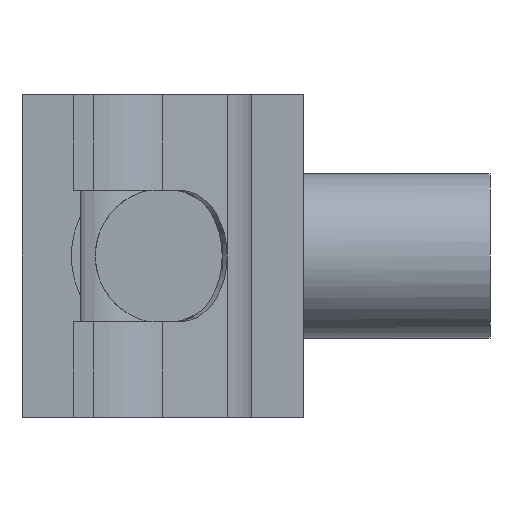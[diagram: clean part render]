
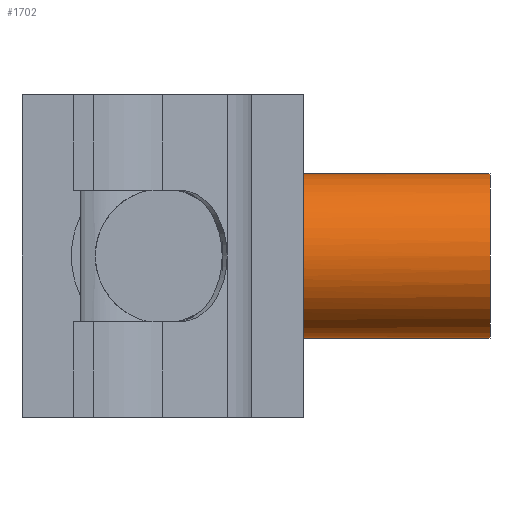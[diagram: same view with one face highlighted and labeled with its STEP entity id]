
A CAD part, front view. The second image highlights one B-rep face of the part: STEP entity #1702.
In plain terms, the highlighted cylindrical face has radius 30.05 mm (diameter 60.1 mm), a full revolution.
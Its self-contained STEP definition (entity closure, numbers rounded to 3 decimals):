
#52=B_SPLINE_CURVE_WITH_KNOTS('',3,(#2805,#2806,#2807,#2808,#2809,#2810,
#2811,#2812,#2813,#2814,#2815,#2816,#2817,#2818,#2819,#2820,#2821,#2822,
#2823,#2824,#2825,#2826),.UNSPECIFIED.,.F.,.F.,(4,2,2,2,2,2,2,2,2,2,4),
(0.,0.363,0.725,1.088,1.451,
2.176,2.902,3.519,4.136,4.753,
5.37),.UNSPECIFIED.);
#53=B_SPLINE_CURVE_WITH_KNOTS('',3,(#2827,#2828,#2829,#2830,#2831,#2832,
#2833,#2834,#2835,#2836,#2837,#2838,#2839,#2840,#2841,#2842,#2843,#2844,
#2845,#2846,#2847,#2848,#2849,#2850,#2851,#2852,#2853,#2854,#2855,#2856,
#2857,#2858,#2859,#2860,#2861,#2862,#2863,#2864,#2865,#2866,#2867,#2868,
#2869,#2870,#2871,#2872,#2873,#2874,#2875,#2876,#2877,#2878,#2879,#2880,
#2881,#2882,#2883,#2884,#2885,#2886,#2887,#2888),.UNSPECIFIED.,.F.,.F.,
(4,2,2,2,2,2,2,2,2,2,2,2,2,2,2,2,2,2,2,2,2,2,2,2,2,2,2,2,2,2,4),(5.37,
5.986,6.603,7.22,7.837,8.563,
9.288,9.651,10.014,10.376,10.739,
11.102,11.464,11.827,12.19,12.915,
13.641,14.258,14.875,15.492,16.109,
16.726,17.343,17.959,18.576,19.302,
20.027,20.39,20.753,21.115,21.478),
 .UNSPECIFIED.);
#62=LINE('',#2803,#215);
#215=VECTOR('',#2041,30.05);
#369=CYLINDRICAL_SURFACE('',#1832,30.05);
#402=FACE_OUTER_BOUND('',#506,.T.);
#506=EDGE_LOOP('',(#1149,#1150,#1151,#1152,#1153,#1154));
#625=CIRCLE('',#1833,30.05);
#626=CIRCLE('',#1834,30.05);
#719=VERTEX_POINT('',#2798);
#720=VERTEX_POINT('',#2799);
#721=VERTEX_POINT('',#2802);
#722=VERTEX_POINT('',#2804);
#890=EDGE_CURVE('',#719,#720,#625,.T.);
#891=EDGE_CURVE('',#720,#719,#626,.T.);
#892=EDGE_CURVE('',#720,#721,#62,.T.);
#893=EDGE_CURVE('',#722,#721,#52,.T.);
#894=EDGE_CURVE('',#721,#722,#53,.T.);
#1149=ORIENTED_EDGE('',*,*,#890,.F.);
#1150=ORIENTED_EDGE('',*,*,#891,.F.);
#1151=ORIENTED_EDGE('',*,*,#892,.T.);
#1152=ORIENTED_EDGE('',*,*,#893,.F.);
#1153=ORIENTED_EDGE('',*,*,#894,.F.);
#1154=ORIENTED_EDGE('',*,*,#892,.F.);
#1702=ADVANCED_FACE('',(#402),#369,.T.);
#1832=AXIS2_PLACEMENT_3D('',#2797,#2035,#2036);
#1833=AXIS2_PLACEMENT_3D('',#2800,#2037,#2038);
#1834=AXIS2_PLACEMENT_3D('',#2801,#2039,#2040);
#2035=DIRECTION('center_axis',(1.,0.,0.));
#2036=DIRECTION('ref_axis',(0.,1.,0.));
#2037=DIRECTION('center_axis',(1.,0.,0.));
#2038=DIRECTION('ref_axis',(0.,0.,-1.));
#2039=DIRECTION('center_axis',(1.,0.,0.));
#2040=DIRECTION('ref_axis',(0.,0.,-1.));
#2041=DIRECTION('',(-1.,0.,0.));
#2797=CARTESIAN_POINT('Origin',(59.944,95.074,0.));
#2798=CARTESIAN_POINT('',(119.888,125.124,0.));
#2799=CARTESIAN_POINT('',(119.888,65.024,0.));
#2800=CARTESIAN_POINT('Origin',(119.888,95.074,0.));
#2801=CARTESIAN_POINT('Origin',(119.888,95.074,0.));
#2802=CARTESIAN_POINT('',(31.034,65.024,0.));
#2803=CARTESIAN_POINT('',(59.944,65.024,0.));
#2804=CARTESIAN_POINT('',(7.753,95.074,-30.05));
#2805=CARTESIAN_POINT('Ctrl Pts',(7.753,95.074,-30.05));
#2806=CARTESIAN_POINT('Ctrl Pts',(7.753,93.865,-30.05));
#2807=CARTESIAN_POINT('Ctrl Pts',(8.026,92.806,-29.981));
#2808=CARTESIAN_POINT('Ctrl Pts',(8.801,90.809,-29.763));
#2809=CARTESIAN_POINT('Ctrl Pts',(9.308,89.873,-29.611));
#2810=CARTESIAN_POINT('Ctrl Pts',(10.449,88.032,-29.228));
#2811=CARTESIAN_POINT('Ctrl Pts',(11.082,87.134,-28.997));
#2812=CARTESIAN_POINT('Ctrl Pts',(12.421,85.352,-28.449));
#2813=CARTESIAN_POINT('Ctrl Pts',(13.128,84.469,-28.133));
#2814=CARTESIAN_POINT('Ctrl Pts',(15.315,81.83,-27.041));
#2815=CARTESIAN_POINT('Ctrl Pts',(16.844,80.104,-26.13));
#2816=CARTESIAN_POINT('Ctrl Pts',(19.827,76.813,-23.946));
#2817=CARTESIAN_POINT('Ctrl Pts',(21.281,75.25,-22.673));
#2818=CARTESIAN_POINT('Ctrl Pts',(23.757,72.614,-20.037));
#2819=CARTESIAN_POINT('Ctrl Pts',(24.88,71.431,-18.644));
#2820=CARTESIAN_POINT('Ctrl Pts',(26.933,69.279,-15.531));
#2821=CARTESIAN_POINT('Ctrl Pts',(27.862,68.311,-13.812));
#2822=CARTESIAN_POINT('Ctrl Pts',(29.4,66.714,-10.136));
#2823=CARTESIAN_POINT('Ctrl Pts',(30.009,66.084,-8.174));
#2824=CARTESIAN_POINT('Ctrl Pts',(30.826,65.238,-4.135));
#2825=CARTESIAN_POINT('Ctrl Pts',(31.034,65.024,-2.057));
#2826=CARTESIAN_POINT('Ctrl Pts',(31.034,65.024,0.));
#2827=CARTESIAN_POINT('Ctrl Pts',(31.034,65.024,0.));
#2828=CARTESIAN_POINT('Ctrl Pts',(31.034,65.024,2.057));
#2829=CARTESIAN_POINT('Ctrl Pts',(30.826,65.238,4.135));
#2830=CARTESIAN_POINT('Ctrl Pts',(30.009,66.084,8.174));
#2831=CARTESIAN_POINT('Ctrl Pts',(29.4,66.714,10.136));
#2832=CARTESIAN_POINT('Ctrl Pts',(27.862,68.311,13.812));
#2833=CARTESIAN_POINT('Ctrl Pts',(26.933,69.279,15.531));
#2834=CARTESIAN_POINT('Ctrl Pts',(24.88,71.431,18.644));
#2835=CARTESIAN_POINT('Ctrl Pts',(23.757,72.614,20.037));
#2836=CARTESIAN_POINT('Ctrl Pts',(21.281,75.25,22.673));
#2837=CARTESIAN_POINT('Ctrl Pts',(19.827,76.813,23.946));
#2838=CARTESIAN_POINT('Ctrl Pts',(16.844,80.104,26.13));
#2839=CARTESIAN_POINT('Ctrl Pts',(15.315,81.83,27.041));
#2840=CARTESIAN_POINT('Ctrl Pts',(13.128,84.469,28.133));
#2841=CARTESIAN_POINT('Ctrl Pts',(12.421,85.352,28.449));
#2842=CARTESIAN_POINT('Ctrl Pts',(11.082,87.134,28.997));
#2843=CARTESIAN_POINT('Ctrl Pts',(10.449,88.032,29.228));
#2844=CARTESIAN_POINT('Ctrl Pts',(9.308,89.873,29.611));
#2845=CARTESIAN_POINT('Ctrl Pts',(8.801,90.809,29.763));
#2846=CARTESIAN_POINT('Ctrl Pts',(8.026,92.806,29.981));
#2847=CARTESIAN_POINT('Ctrl Pts',(7.753,93.865,30.05));
#2848=CARTESIAN_POINT('Ctrl Pts',(7.753,96.283,30.05));
#2849=CARTESIAN_POINT('Ctrl Pts',(8.026,97.342,29.981));
#2850=CARTESIAN_POINT('Ctrl Pts',(8.801,99.339,29.763));
#2851=CARTESIAN_POINT('Ctrl Pts',(9.308,100.275,29.611));
#2852=CARTESIAN_POINT('Ctrl Pts',(10.449,102.116,29.228));
#2853=CARTESIAN_POINT('Ctrl Pts',(11.082,103.014,28.997));
#2854=CARTESIAN_POINT('Ctrl Pts',(12.421,104.796,28.449));
#2855=CARTESIAN_POINT('Ctrl Pts',(13.128,105.679,28.133));
#2856=CARTESIAN_POINT('Ctrl Pts',(15.315,108.318,27.041));
#2857=CARTESIAN_POINT('Ctrl Pts',(16.844,110.044,26.13));
#2858=CARTESIAN_POINT('Ctrl Pts',(19.827,113.335,23.946));
#2859=CARTESIAN_POINT('Ctrl Pts',(21.281,114.898,22.673));
#2860=CARTESIAN_POINT('Ctrl Pts',(23.757,117.534,20.037));
#2861=CARTESIAN_POINT('Ctrl Pts',(24.88,118.717,18.644));
#2862=CARTESIAN_POINT('Ctrl Pts',(26.933,120.869,15.531));
#2863=CARTESIAN_POINT('Ctrl Pts',(27.862,121.837,13.812));
#2864=CARTESIAN_POINT('Ctrl Pts',(29.4,123.434,10.136));
#2865=CARTESIAN_POINT('Ctrl Pts',(30.009,124.064,8.174));
#2866=CARTESIAN_POINT('Ctrl Pts',(30.826,124.91,4.135));
#2867=CARTESIAN_POINT('Ctrl Pts',(31.034,125.124,2.057));
#2868=CARTESIAN_POINT('Ctrl Pts',(31.034,125.124,-2.057));
#2869=CARTESIAN_POINT('Ctrl Pts',(30.826,124.91,-4.135));
#2870=CARTESIAN_POINT('Ctrl Pts',(30.009,124.064,-8.174));
#2871=CARTESIAN_POINT('Ctrl Pts',(29.4,123.434,-10.136));
#2872=CARTESIAN_POINT('Ctrl Pts',(27.862,121.837,-13.812));
#2873=CARTESIAN_POINT('Ctrl Pts',(26.933,120.869,-15.531));
#2874=CARTESIAN_POINT('Ctrl Pts',(24.88,118.717,-18.644));
#2875=CARTESIAN_POINT('Ctrl Pts',(23.757,117.534,-20.037));
#2876=CARTESIAN_POINT('Ctrl Pts',(21.281,114.898,-22.673));
#2877=CARTESIAN_POINT('Ctrl Pts',(19.827,113.335,-23.946));
#2878=CARTESIAN_POINT('Ctrl Pts',(16.844,110.044,-26.13));
#2879=CARTESIAN_POINT('Ctrl Pts',(15.315,108.318,-27.041));
#2880=CARTESIAN_POINT('Ctrl Pts',(13.128,105.679,-28.133));
#2881=CARTESIAN_POINT('Ctrl Pts',(12.421,104.796,-28.449));
#2882=CARTESIAN_POINT('Ctrl Pts',(11.082,103.014,-28.997));
#2883=CARTESIAN_POINT('Ctrl Pts',(10.449,102.116,-29.228));
#2884=CARTESIAN_POINT('Ctrl Pts',(9.308,100.275,-29.611));
#2885=CARTESIAN_POINT('Ctrl Pts',(8.801,99.339,-29.763));
#2886=CARTESIAN_POINT('Ctrl Pts',(8.026,97.342,-29.981));
#2887=CARTESIAN_POINT('Ctrl Pts',(7.753,96.283,-30.05));
#2888=CARTESIAN_POINT('Ctrl Pts',(7.753,95.074,-30.05));
